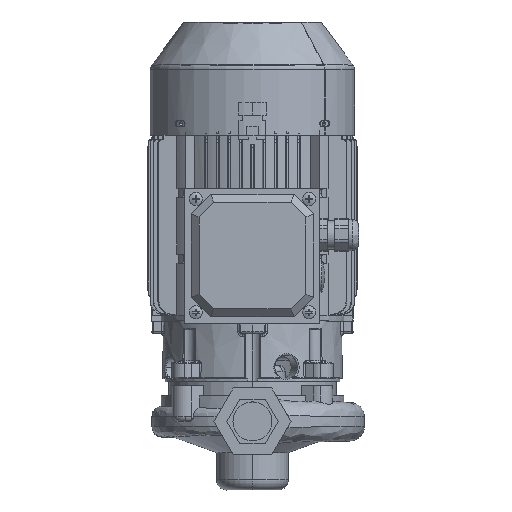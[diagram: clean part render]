
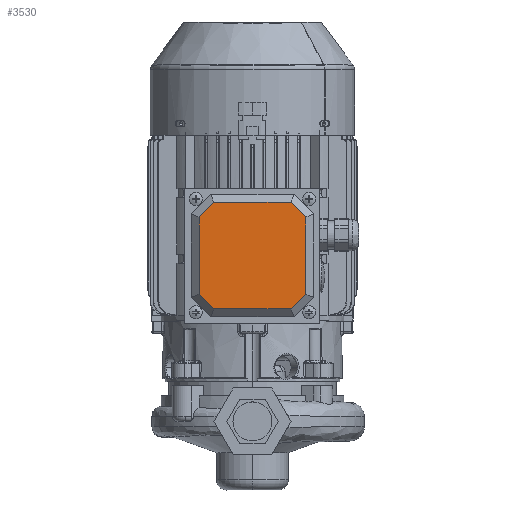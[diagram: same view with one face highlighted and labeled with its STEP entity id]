
A CAD part, top view. The second image highlights one B-rep face of the part: STEP entity #3530.
In plain terms, the highlighted planar face has unit normal (0, 0, 1) as drawn and (0, 1, 0) by its records, which use the part's own axes.
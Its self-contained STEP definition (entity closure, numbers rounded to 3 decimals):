
#3530=ADVANCED_FACE('NONE',(#10966),#10967,.F.);
#10966=FACE_OUTER_BOUND('',#26201,.T.);
#10967=PLANE('',#26202);
#26201=EDGE_LOOP('',(#46367,#46368,#46369,#46370,#46371,#46372,#46373,#46374));
#26202=AXIS2_PLACEMENT_3D('',#46375,#46376,#46377);
#46367=ORIENTED_EDGE('',*,*,#63867,.T.);
#46368=ORIENTED_EDGE('',*,*,#63868,.T.);
#46369=ORIENTED_EDGE('',*,*,#63869,.T.);
#46370=ORIENTED_EDGE('',*,*,#63870,.T.);
#46371=ORIENTED_EDGE('',*,*,#63871,.T.);
#46372=ORIENTED_EDGE('',*,*,#63872,.T.);
#46373=ORIENTED_EDGE('',*,*,#63873,.T.);
#46374=ORIENTED_EDGE('',*,*,#63874,.T.);
#46375=CARTESIAN_POINT('',(0.0,12.0,0.0));
#46376=DIRECTION('',(0.0,-1.0,0.0));
#46377=DIRECTION('',(0.0,0.0,-1.0));
#63867=EDGE_CURVE('NONE',#74526,#74527,#74528,.T.);
#63868=EDGE_CURVE('NONE',#74527,#74529,#74530,.T.);
#63869=EDGE_CURVE('NONE',#74529,#74531,#74532,.T.);
#63870=EDGE_CURVE('NONE',#74531,#74533,#74534,.T.);
#63871=EDGE_CURVE('NONE',#74533,#74535,#74536,.T.);
#63872=EDGE_CURVE('NONE',#74535,#74537,#74538,.T.);
#63873=EDGE_CURVE('NONE',#74537,#74539,#74540,.T.);
#63874=EDGE_CURVE('NONE',#74539,#74526,#74541,.T.);
#74526=VERTEX_POINT('NONE',#93725);
#74527=VERTEX_POINT('NONE',#93726);
#74528=LINE('',#93727,#93728);
#74529=VERTEX_POINT('NONE',#93729);
#74530=LINE('',#93730,#93731);
#74531=VERTEX_POINT('NONE',#93732);
#74532=LINE('',#93733,#93734);
#74533=VERTEX_POINT('NONE',#93735);
#74534=LINE('',#93736,#93737);
#74535=VERTEX_POINT('NONE',#93738);
#74536=LINE('',#93739,#93740);
#74537=VERTEX_POINT('NONE',#93741);
#74538=LINE('',#93742,#93743);
#74539=VERTEX_POINT('NONE',#93744);
#74540=LINE('',#93745,#93746);
#74541=LINE('',#93747,#93748);
#93725=CARTESIAN_POINT('',(-30.015,12.0,-41.5));
#93726=CARTESIAN_POINT('',(-41.5,12.0,-30.015));
#93727=CARTESIAN_POINT('',(-35.757,12.0,-35.757));
#93728=VECTOR('',#117195,1000.0);
#93729=CARTESIAN_POINT('',(-41.5,12.0,30.015));
#93730=CARTESIAN_POINT('',(-41.5,12.0,0.0));
#93731=VECTOR('',#117196,1000.0);
#93732=CARTESIAN_POINT('',(-30.015,12.0,41.5));
#93733=CARTESIAN_POINT('',(-28.257,12.0,43.257));
#93734=VECTOR('',#117197,1000.0);
#93735=CARTESIAN_POINT('',(30.015,12.0,41.5));
#93736=CARTESIAN_POINT('',(32.5,12.0,41.5));
#93737=VECTOR('',#117198,1000.0);
#93738=CARTESIAN_POINT('',(41.5,12.0,30.015));
#93739=CARTESIAN_POINT('',(35.757,12.0,35.757));
#93740=VECTOR('',#117199,1000.0);
#93741=CARTESIAN_POINT('',(41.5,12.0,-30.015));
#93742=CARTESIAN_POINT('',(41.5,12.0,-32.5));
#93743=VECTOR('',#117200,1000.0);
#93744=CARTESIAN_POINT('',(30.015,12.0,-41.5));
#93745=CARTESIAN_POINT('',(28.257,12.0,-43.257));
#93746=VECTOR('',#117201,1000.0);
#93747=CARTESIAN_POINT('',(0.0,12.0,-41.5));
#93748=VECTOR('',#117202,1000.0);
#117195=DIRECTION('',(-0.707,0.0,0.707));
#117196=DIRECTION('',(0.0,0.0,1.0));
#117197=DIRECTION('',(0.707,0.0,0.707));
#117198=DIRECTION('',(1.0,0.0,0.0));
#117199=DIRECTION('',(0.707,0.0,-0.707));
#117200=DIRECTION('',(0.0,0.0,-1.0));
#117201=DIRECTION('',(-0.707,0.0,-0.707));
#117202=DIRECTION('',(-1.0,0.0,0.0));
